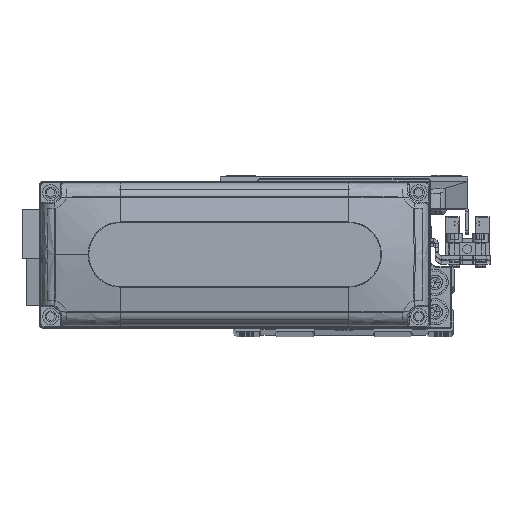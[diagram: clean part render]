
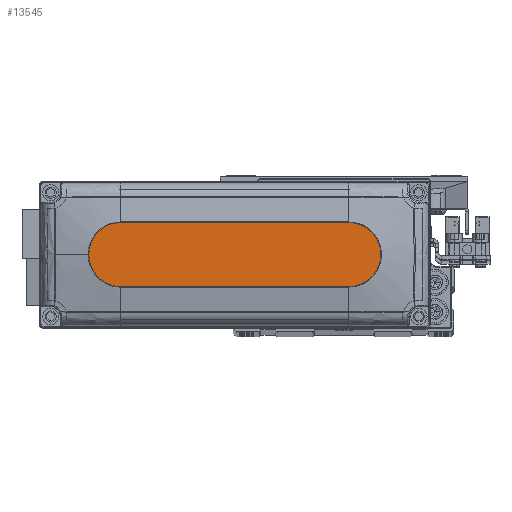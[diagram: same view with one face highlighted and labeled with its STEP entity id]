
A CAD part, top view. The second image highlights one B-rep face of the part: STEP entity #13545.
In plain terms, the highlighted planar face has unit normal (0, 0, 1).
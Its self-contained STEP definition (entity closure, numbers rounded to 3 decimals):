
#182 = DIRECTION ( 'NONE',  ( 1., 0., 0. ) ) ;
#3838 = ORIENTED_EDGE ( 'NONE', *, *, #39459, .T. ) ;
#6608 = AXIS2_PLACEMENT_3D ( 'NONE', #31745, #46235, #13633 ) ;
#7407 = CARTESIAN_POINT ( 'NONE',  ( 45., 0., 28. ) ) ;
#8159 = CARTESIAN_POINT ( 'NONE',  ( -35., -10., 28. ) ) ;
#8542 = DIRECTION ( 'NONE',  ( 0., 0., 1. ) ) ;
#8835 = DIRECTION ( 'NONE',  ( 0., 0., 1. ) ) ;
#9135 = ORIENTED_EDGE ( 'NONE', *, *, #26995, .T. ) ;
#10042 = CARTESIAN_POINT ( 'NONE',  ( 35., 10., 28. ) ) ;
#10871 = ORIENTED_EDGE ( 'NONE', *, *, #41657, .T. ) ;
#11127 = CARTESIAN_POINT ( 'NONE',  ( -35., 10., 28. ) ) ;
#12397 = FACE_OUTER_BOUND ( 'NONE', #15892, .T. ) ;
#13365 = AXIS2_PLACEMENT_3D ( 'NONE', #41441, #8835, #23362 ) ;
#13545 = ADVANCED_FACE ( 'NONE', ( #12397 ), #26936, .T. ) ;
#13633 = DIRECTION ( 'NONE',  ( 1., 0., 0. ) ) ;
#14869 = EDGE_CURVE ( 'NONE', #23091, #33375, #43749, .T. ) ;
#14974 = CARTESIAN_POINT ( 'NONE',  ( 35., -10., 28. ) ) ;
#15429 = AXIS2_PLACEMENT_3D ( 'NONE', #41140, #8542, #23043 ) ;
#15892 = EDGE_LOOP ( 'NONE', ( #35797, #29908, #9135, #3838, #10871 ) ) ;
#18270 = CARTESIAN_POINT ( 'NONE',  ( 35., 0., 28. ) ) ;
#19682 = CIRCLE ( 'NONE', #46276, 10. ) ;
#20319 = VECTOR ( 'NONE', #25670, 1000. ) ;
#22673 = DIRECTION ( 'NONE',  ( 1., 0., 0. ) ) ;
#23043 = DIRECTION ( 'NONE',  ( 1., 0., 0. ) ) ;
#23091 = VERTEX_POINT ( 'NONE', #10042 ) ;
#23362 = DIRECTION ( 'NONE',  ( 1., 0., 0. ) ) ;
#25073 = EDGE_CURVE ( 'NONE', #33375, #35334, #35975, .T. ) ;
#25670 = DIRECTION ( 'NONE',  ( -1., 0., 0. ) ) ;
#26309 = VECTOR ( 'NONE', #22673, 1000. ) ;
#26936 = PLANE ( 'NONE',  #13365 ) ;
#26995 = EDGE_CURVE ( 'NONE', #35334, #38854, #40757, .T. ) ;
#27144 = CIRCLE ( 'NONE', #6608, 10. ) ;
#29908 = ORIENTED_EDGE ( 'NONE', *, *, #25073, .T. ) ;
#31745 = CARTESIAN_POINT ( 'NONE',  ( 35., 0., 28. ) ) ;
#32813 = DIRECTION ( 'NONE',  ( 0., 0., 1. ) ) ;
#33375 = VERTEX_POINT ( 'NONE', #43277 ) ;
#35334 = VERTEX_POINT ( 'NONE', #45799 ) ;
#35797 = ORIENTED_EDGE ( 'NONE', *, *, #14869, .T. ) ;
#35893 = VERTEX_POINT ( 'NONE', #7407 ) ;
#35975 = CIRCLE ( 'NONE', #15429, 10. ) ;
#38854 = VERTEX_POINT ( 'NONE', #14974 ) ;
#39459 = EDGE_CURVE ( 'NONE', #38854, #35893, #27144, .T. ) ;
#40757 = LINE ( 'NONE', #8159, #26309 ) ;
#41140 = CARTESIAN_POINT ( 'NONE',  ( -35., 0., 28. ) ) ;
#41441 = CARTESIAN_POINT ( 'NONE',  ( 0., 0., 28. ) ) ;
#41657 = EDGE_CURVE ( 'NONE', #35893, #23091, #19682, .T. ) ;
#43277 = CARTESIAN_POINT ( 'NONE',  ( -35., 10., 28. ) ) ;
#43749 = LINE ( 'NONE', #11127, #20319 ) ;
#45799 = CARTESIAN_POINT ( 'NONE',  ( -35., -10., 28. ) ) ;
#46235 = DIRECTION ( 'NONE',  ( 0., 0., 1. ) ) ;
#46276 = AXIS2_PLACEMENT_3D ( 'NONE', #18270, #32813, #182 ) ;
